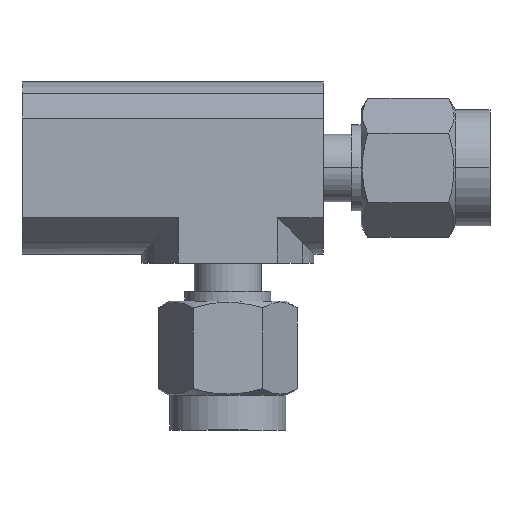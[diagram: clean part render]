
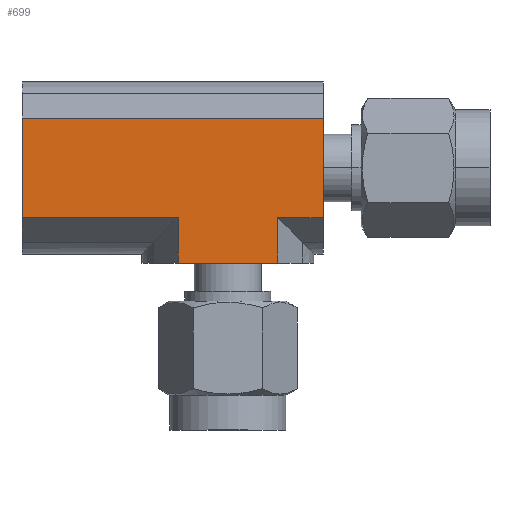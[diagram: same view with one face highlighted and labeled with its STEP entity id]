
A CAD part, top view. The second image highlights one B-rep face of the part: STEP entity #699.
In plain terms, the highlighted planar face has unit normal (0, 0, 1).
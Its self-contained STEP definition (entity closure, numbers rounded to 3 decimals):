
#236 = VERTEX_POINT ( 'NONE', #1215 ) ;
#238 = EDGE_CURVE ( 'NONE', #236, #239, #1214, .T. ) ;
#239 = VERTEX_POINT ( 'NONE', #1210 ) ;
#479 = EDGE_LOOP ( 'NONE', ( #480, #481, #685, #686, #688, #689, #690, #691 ) ) ;
#480 = ORIENTED_EDGE ( 'NONE', *, *, #833, .F. ) ;
#481 = ORIENTED_EDGE ( 'NONE', *, *, #684, .F. ) ;
#486 = EDGE_CURVE ( 'NONE', #834, #675, #1705, .T. ) ;
#675 = VERTEX_POINT ( 'NONE', #2174 ) ;
#684 = EDGE_CURVE ( 'NONE', #239, #830, #2167, .T. ) ;
#685 = ORIENTED_EDGE ( 'NONE', *, *, #238, .F. ) ;
#686 = ORIENTED_EDGE ( 'NONE', *, *, #687, .T. ) ;
#687 = EDGE_CURVE ( 'NONE', #236, #820, #2163, .T. ) ;
#688 = ORIENTED_EDGE ( 'NONE', *, *, #825, .F. ) ;
#689 = ORIENTED_EDGE ( 'NONE', *, *, #792, .F. ) ;
#690 = ORIENTED_EDGE ( 'NONE', *, *, #697, .T. ) ;
#691 = ORIENTED_EDGE ( 'NONE', *, *, #486, .F. ) ;
#697 = EDGE_CURVE ( 'NONE', #845, #675, #2158, .T. ) ;
#699 = ADVANCED_FACE ( 'NONE', ( #2149 ), #2148, .F. ) ;
#792 = EDGE_CURVE ( 'NONE', #845, #945, #2182, .T. ) ;
#820 = VERTEX_POINT ( 'NONE', #2295 ) ;
#825 = EDGE_CURVE ( 'NONE', #945, #820, #2290, .T. ) ;
#830 = VERTEX_POINT ( 'NONE', #2276 ) ;
#833 = EDGE_CURVE ( 'NONE', #830, #834, #2274, .T. ) ;
#834 = VERTEX_POINT ( 'NONE', #2270 ) ;
#845 = VERTEX_POINT ( 'NONE', #2248 ) ;
#945 = VERTEX_POINT ( 'NONE', #2402 ) ;
#1210 = CARTESIAN_POINT ( 'NONE',  ( -4.59, -8.8, 7.95 ) ) ;
#1211 = DIRECTION ( 'NONE',  ( -1., 0., 0. ) ) ;
#1212 = VECTOR ( 'NONE', #1211, 1000. ) ;
#1213 = CARTESIAN_POINT ( 'NONE',  ( 4.59, -8.8, 7.95 ) ) ;
#1214 = LINE ( 'NONE', #1213, #1212 ) ;
#1215 = CARTESIAN_POINT ( 'NONE',  ( 4.59, -8.8, 7.95 ) ) ;
#1702 = DIRECTION ( 'NONE',  ( 0., 1., 0. ) ) ;
#1703 = VECTOR ( 'NONE', #1702, 1000. ) ;
#1704 = CARTESIAN_POINT ( 'NONE',  ( -19., -4.59, 7.95 ) ) ;
#1705 = LINE ( 'NONE', #1704, #1703 ) ;
#2148 = PLANE ( 'NONE',  #2239 ) ;
#2149 = FACE_OUTER_BOUND ( 'NONE', #479, .T. ) ;
#2150 = DIRECTION ( 'NONE',  ( -1., 0., 0. ) ) ;
#2151 = VECTOR ( 'NONE', #2150, 1000. ) ;
#2152 = CARTESIAN_POINT ( 'NONE',  ( 8.8, 4.59, 7.95 ) ) ;
#2158 = LINE ( 'NONE', #2152, #2151 ) ;
#2160 = DIRECTION ( 'NONE',  ( 0., 1., 0. ) ) ;
#2161 = VECTOR ( 'NONE', #2160, 1000. ) ;
#2162 = CARTESIAN_POINT ( 'NONE',  ( 4.59, -8.8, 7.95 ) ) ;
#2163 = LINE ( 'NONE', #2162, #2161 ) ;
#2164 = DIRECTION ( 'NONE',  ( 0., 1., 0. ) ) ;
#2165 = VECTOR ( 'NONE', #2164, 1000. ) ;
#2166 = CARTESIAN_POINT ( 'NONE',  ( -4.59, -8.8, 7.95 ) ) ;
#2167 = LINE ( 'NONE', #2166, #2165 ) ;
#2174 = CARTESIAN_POINT ( 'NONE',  ( -19., 4.59, 7.95 ) ) ;
#2179 = DIRECTION ( 'NONE',  ( 0., -1., 0. ) ) ;
#2180 = VECTOR ( 'NONE', #2179, 1000. ) ;
#2181 = CARTESIAN_POINT ( 'NONE',  ( 8.8, 4.59, 7.95 ) ) ;
#2182 = LINE ( 'NONE', #2181, #2180 ) ;
#2236 = DIRECTION ( 'NONE',  ( 0., 1., 0. ) ) ;
#2237 = DIRECTION ( 'NONE',  ( 0., 0., -1. ) ) ;
#2238 = CARTESIAN_POINT ( 'NONE',  ( 8.8, 4.59, 7.95 ) ) ;
#2239 = AXIS2_PLACEMENT_3D ( 'NONE', #2238, #2237, #2236 ) ;
#2248 = CARTESIAN_POINT ( 'NONE',  ( 8.8, 4.59, 7.95 ) ) ;
#2270 = CARTESIAN_POINT ( 'NONE',  ( -19., -4.59, 7.95 ) ) ;
#2271 = DIRECTION ( 'NONE',  ( -1., 0., 0. ) ) ;
#2272 = VECTOR ( 'NONE', #2271, 1000. ) ;
#2273 = CARTESIAN_POINT ( 'NONE',  ( 8.8, -4.59, 7.95 ) ) ;
#2274 = LINE ( 'NONE', #2273, #2272 ) ;
#2276 = CARTESIAN_POINT ( 'NONE',  ( -4.59, -4.59, 7.95 ) ) ;
#2287 = DIRECTION ( 'NONE',  ( -1., 0., 0. ) ) ;
#2288 = VECTOR ( 'NONE', #2287, 1000. ) ;
#2289 = CARTESIAN_POINT ( 'NONE',  ( 8.8, -4.59, 7.95 ) ) ;
#2290 = LINE ( 'NONE', #2289, #2288 ) ;
#2295 = CARTESIAN_POINT ( 'NONE',  ( 4.59, -4.59, 7.95 ) ) ;
#2402 = CARTESIAN_POINT ( 'NONE',  ( 8.8, -4.59, 7.95 ) ) ;
